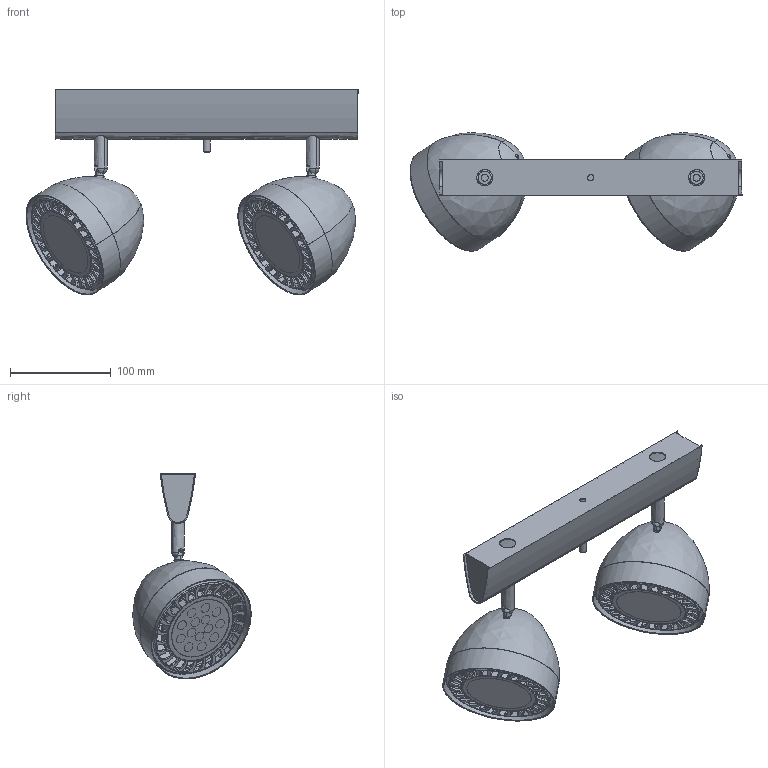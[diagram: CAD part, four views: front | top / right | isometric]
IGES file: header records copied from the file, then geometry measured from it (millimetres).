
Start section: SolidWorks IGES file using NURBS representation for surfaces
Global section: file name: Z:\Modele 3D_WWW\_KOLEKCJE_WWW\VESPA\VESPA-9593-8840\VESPA-9593-8840.IGS; native system: SolidWorks 2021; preprocessor: SolidWorks 2021; author: gabriela.tworek; date: 211105.072857; units: millimetre
Bounding box: 329.06 x 117.21 x 204.13 mm (x, y, z)
Surface area: 310112.9 mm2 (no closed solid volume)
Topology: 0 solids, 0 shells, 1166 faces, 18038 edges, 17966 vertices
Faces by surface type: bspline 1166
